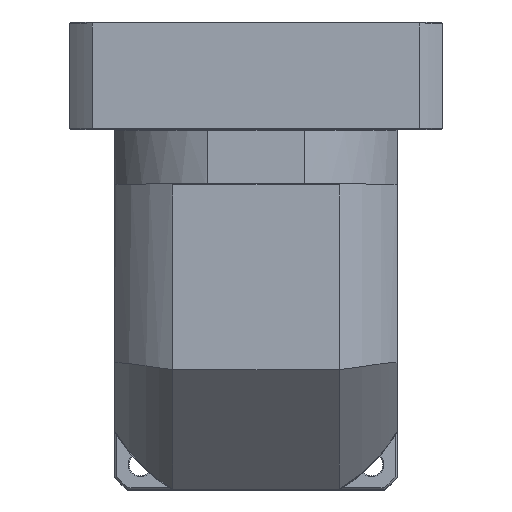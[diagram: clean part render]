
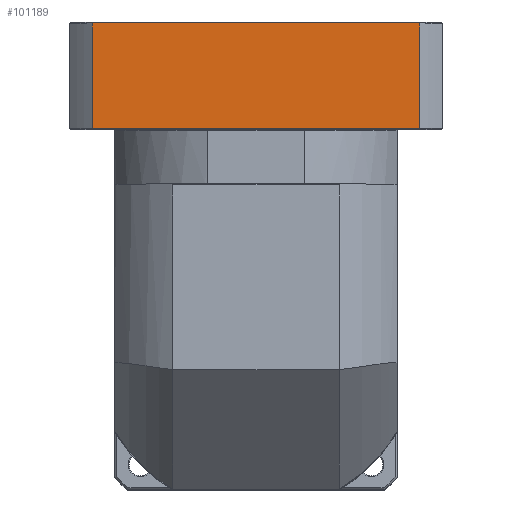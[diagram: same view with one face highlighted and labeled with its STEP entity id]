
A CAD part, top view. The second image highlights one B-rep face of the part: STEP entity #101189.
In plain terms, the highlighted planar face has unit normal (0, 0, 1).
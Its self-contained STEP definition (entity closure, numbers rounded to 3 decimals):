
#2959 = CARTESIAN_POINT ( 'NONE',  ( -16.145, 223.02, 114.223 ) ) ;
#23567 = CARTESIAN_POINT ( 'NONE',  ( -27.75, 170.02, 114.223 ) ) ;
#24539 = VECTOR ( 'NONE', #114222, 1000. ) ;
#28075 = EDGE_CURVE ( 'NONE', #35013, #129250, #45911, .T. ) ;
#32969 = ORIENTED_EDGE ( 'NONE', *, *, #137747, .F. ) ;
#34455 = VERTEX_POINT ( 'NONE', #123006 ) ;
#35013 = VERTEX_POINT ( 'NONE', #48194 ) ;
#45133 = PLANE ( 'NONE',  #46125 ) ;
#45911 = LINE ( 'NONE', #59814, #102663 ) ;
#46125 = AXIS2_PLACEMENT_3D ( 'NONE', #47416, #111803, #121626 ) ;
#47416 = CARTESIAN_POINT ( 'NONE',  ( -16.145, 223.52, 114.223 ) ) ;
#48194 = CARTESIAN_POINT ( 'NONE',  ( -192.541, 170.02, 114.223 ) ) ;
#53511 = EDGE_LOOP ( 'NONE', ( #95514, #96764, #118549, #32969 ) ) ;
#54900 = VECTOR ( 'NONE', #99085, 1000. ) ;
#59814 = CARTESIAN_POINT ( 'NONE',  ( -16.145, 170.02, 114.223 ) ) ;
#60366 = EDGE_CURVE ( 'NONE', #35013, #34455, #86205, .T. ) ;
#62833 = CARTESIAN_POINT ( 'NONE',  ( -192.541, 223.52, 114.223 ) ) ;
#67898 = VECTOR ( 'NONE', #121969, 1000. ) ;
#68212 = LINE ( 'NONE', #2959, #54900 ) ;
#70083 = CARTESIAN_POINT ( 'NONE',  ( -27.75, 223.02, 114.223 ) ) ;
#73325 = VERTEX_POINT ( 'NONE', #70083 ) ;
#74622 = LINE ( 'NONE', #100952, #67898 ) ;
#86205 = LINE ( 'NONE', #62833, #24539 ) ;
#93301 = FACE_OUTER_BOUND ( 'NONE', #53511, .T. ) ;
#95514 = ORIENTED_EDGE ( 'NONE', *, *, #60366, .F. ) ;
#96764 = ORIENTED_EDGE ( 'NONE', *, *, #28075, .T. ) ;
#99085 = DIRECTION ( 'NONE',  ( 1., 0., 0. ) ) ;
#100952 = CARTESIAN_POINT ( 'NONE',  ( -27.75, -187.569, 114.223 ) ) ;
#101189 = ADVANCED_FACE ( 'NONE', ( #93301 ), #45133, .F. ) ;
#102663 = VECTOR ( 'NONE', #113930, 1000. ) ;
#106101 = EDGE_CURVE ( 'NONE', #73325, #129250, #74622, .T. ) ;
#111803 = DIRECTION ( 'NONE',  ( 0., 0., -1. ) ) ;
#113930 = DIRECTION ( 'NONE',  ( 1., 0., 0. ) ) ;
#114222 = DIRECTION ( 'NONE',  ( 0., 1., 0. ) ) ;
#118549 = ORIENTED_EDGE ( 'NONE', *, *, #106101, .F. ) ;
#121626 = DIRECTION ( 'NONE',  ( 0., -1., 0. ) ) ;
#121969 = DIRECTION ( 'NONE',  ( 0., -1., 0. ) ) ;
#123006 = CARTESIAN_POINT ( 'NONE',  ( -192.541, 223.02, 114.223 ) ) ;
#129250 = VERTEX_POINT ( 'NONE', #23567 ) ;
#137747 = EDGE_CURVE ( 'NONE', #34455, #73325, #68212, .T. ) ;
